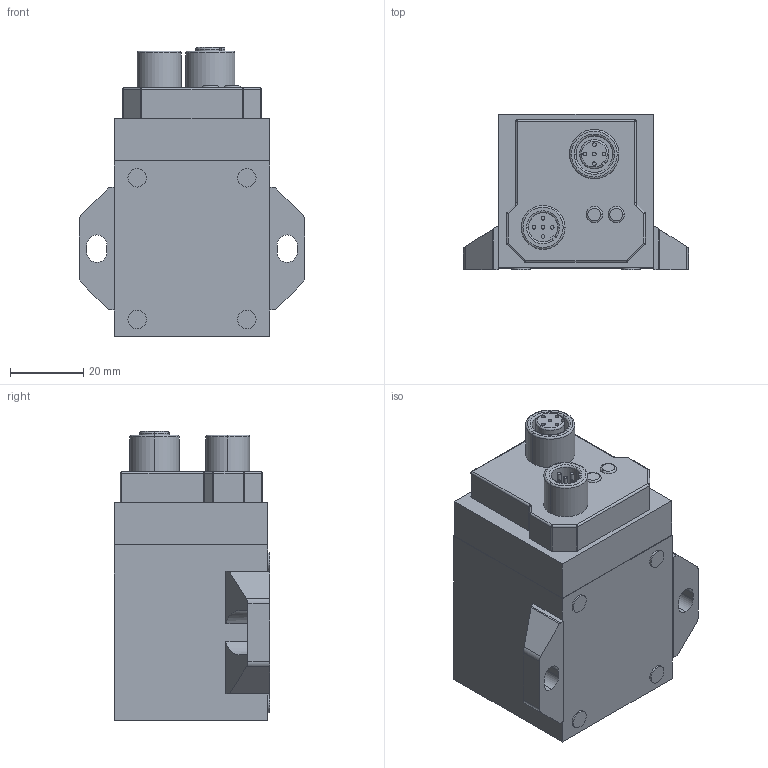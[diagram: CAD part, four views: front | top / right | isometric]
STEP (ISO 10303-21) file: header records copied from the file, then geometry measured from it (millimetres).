
FILE_DESCRIPTION (( 'STEP AP214' ), '1' );
FILE_NAME ('D0346_0_8.IS60.21523.STEP', '2011-04-08T07:22:32', ( 'admin' ), ( 'Fritz Kübler GmbH' ), 'SwSTEP 2.0', 'SolidWorks 2009', '' );
FILE_SCHEMA (( 'AUTOMOTIVE_DESIGN' ));
Length unit declared in the file: millimetre
Products named in the file (1): D0346_0_8.IS60.21523
Bounding box: 61.5 x 42.5 x 79 mm (x, y, z)
Volume: 122954.8 mm3; surface area: 18094.8 mm2
Topology: 1 solids, 1 shells, 193 faces, 456 edges, 286 vertices
Faces by surface type: cylinder 84, plane 83, torus 18, sphere 8
Entity records: 5679 total; most frequent: DIRECTION 1020, CARTESIAN_POINT 978, ORIENTED_EDGE 904, EDGE_CURVE 452, AXIS2_PLACEMENT_3D 388, VERTEX_POINT 286, VECTOR 244, LINE 244
